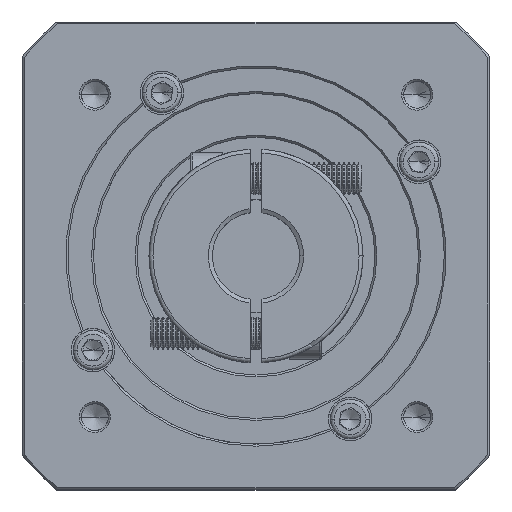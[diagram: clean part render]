
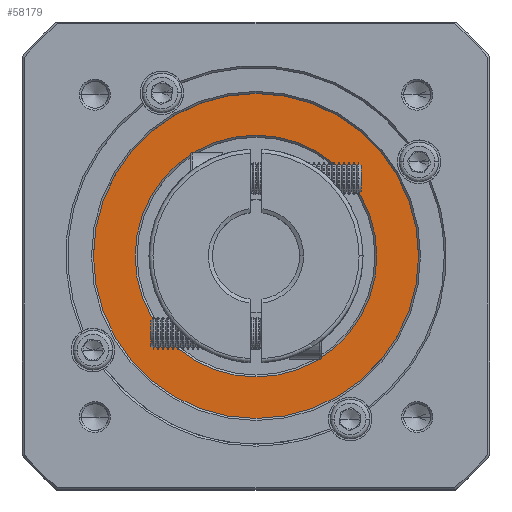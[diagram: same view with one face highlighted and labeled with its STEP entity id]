
A CAD part, top view. The second image highlights one B-rep face of the part: STEP entity #58179.
In plain terms, the highlighted planar face has unit normal (0, 0, 1).
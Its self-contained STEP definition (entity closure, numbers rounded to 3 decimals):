
#1630 = EDGE_CURVE ( 'NONE', #39425, #16343, #94525, .T. ) ;
#1645 = CARTESIAN_POINT ( 'NONE',  ( 41.48, 115.772, -19.75 ) ) ;
#4282 = CARTESIAN_POINT ( 'NONE',  ( 41.48, 115.772, -19.75 ) ) ;
#7728 = EDGE_CURVE ( 'NONE', #88253, #18260, #30444, .T. ) ;
#11146 = DIRECTION ( 'NONE',  ( 1., 0., 0. ) ) ;
#12812 = DIRECTION ( 'NONE',  ( 0., 0., 1. ) ) ;
#13794 = DIRECTION ( 'NONE',  ( 1., 0., 0. ) ) ;
#16343 = VERTEX_POINT ( 'NONE', #82683 ) ;
#18260 = VERTEX_POINT ( 'NONE', #32695 ) ;
#22640 = ORIENTED_EDGE ( 'NONE', *, *, #61825, .T. ) ;
#30444 = CIRCLE ( 'NONE', #70551, 41. ) ;
#30591 = PLANE ( 'NONE',  #80617 ) ;
#32036 = FACE_OUTER_BOUND ( 'NONE', #114833, .T. ) ;
#32695 = CARTESIAN_POINT ( 'NONE',  ( 82.48, 115.772, -19.75 ) ) ;
#34581 = ORIENTED_EDGE ( 'NONE', *, *, #1630, .T. ) ;
#35008 = FACE_BOUND ( 'NONE', #88292, .T. ) ;
#38477 = CARTESIAN_POINT ( 'NONE',  ( 0.48, 115.772, -19.75 ) ) ;
#39425 = VERTEX_POINT ( 'NONE', #96905 ) ;
#43205 = AXIS2_PLACEMENT_3D ( 'NONE', #4282, #70451, #13794 ) ;
#43323 = AXIS2_PLACEMENT_3D ( 'NONE', #47705, #113654, #57225 ) ;
#47705 = CARTESIAN_POINT ( 'NONE',  ( 41.48, 115.772, -19.75 ) ) ;
#52646 = CARTESIAN_POINT ( 'NONE',  ( 41.48, 115.772, -19.75 ) ) ;
#57225 = DIRECTION ( 'NONE',  ( 1., 0., 0. ) ) ;
#58179 = ADVANCED_FACE ( 'NONE', ( #32036, #35008 ), #30591, .T. ) ;
#61825 = EDGE_CURVE ( 'NONE', #16343, #39425, #104823, .T. ) ;
#62140 = DIRECTION ( 'NONE',  ( 1., 0., 0. ) ) ;
#67848 = DIRECTION ( 'NONE',  ( 0., 0., -1. ) ) ;
#69505 = CARTESIAN_POINT ( 'NONE',  ( 41.48, 115.772, -19.75 ) ) ;
#70451 = DIRECTION ( 'NONE',  ( 0., 0., -1. ) ) ;
#70551 = AXIS2_PLACEMENT_3D ( 'NONE', #52646, #118599, #62140 ) ;
#73369 = ORIENTED_EDGE ( 'NONE', *, *, #93131, .T. ) ;
#75405 = ORIENTED_EDGE ( 'NONE', *, *, #7728, .T. ) ;
#76579 = AXIS2_PLACEMENT_3D ( 'NONE', #1645, #67848, #11146 ) ;
#78944 = DIRECTION ( 'NONE',  ( 1., 0., 0. ) ) ;
#80617 = AXIS2_PLACEMENT_3D ( 'NONE', #69505, #12812, #78944 ) ;
#82683 = CARTESIAN_POINT ( 'NONE',  ( 10.98, 115.772, -19.75 ) ) ;
#88253 = VERTEX_POINT ( 'NONE', #38477 ) ;
#88292 = EDGE_LOOP ( 'NONE', ( #34581, #22640 ) ) ;
#93131 = EDGE_CURVE ( 'NONE', #18260, #88253, #107439, .T. ) ;
#94525 = CIRCLE ( 'NONE', #76579, 30.5 ) ;
#96905 = CARTESIAN_POINT ( 'NONE',  ( 71.98, 115.772, -19.75 ) ) ;
#104823 = CIRCLE ( 'NONE', #43205, 30.5 ) ;
#107439 = CIRCLE ( 'NONE', #43323, 41. ) ;
#113654 = DIRECTION ( 'NONE',  ( 0., 0., 1. ) ) ;
#114833 = EDGE_LOOP ( 'NONE', ( #73369, #75405 ) ) ;
#118599 = DIRECTION ( 'NONE',  ( 0., 0., 1. ) ) ;
